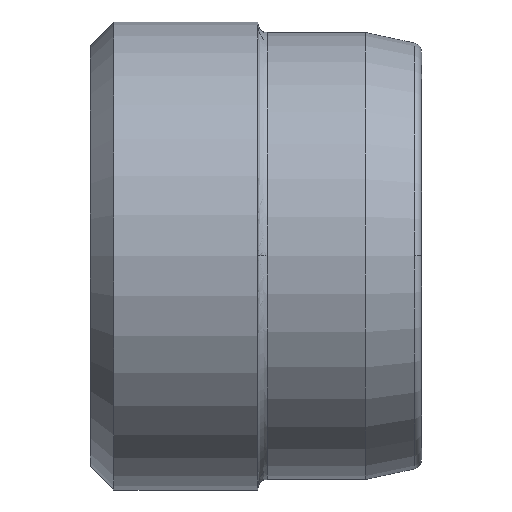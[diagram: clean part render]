
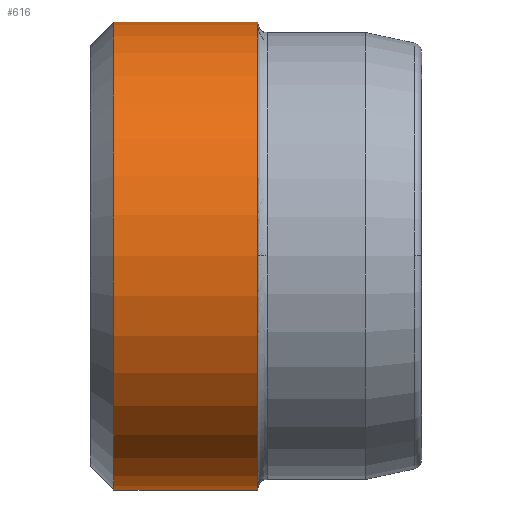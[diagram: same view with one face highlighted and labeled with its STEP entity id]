
A CAD part, top view. The second image highlights one B-rep face of the part: STEP entity #616.
In plain terms, the highlighted cylindrical face has radius 5 mm (diameter 10 mm), a partial arc.
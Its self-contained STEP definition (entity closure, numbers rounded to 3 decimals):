
#575=CARTESIAN_POINT('',(-0.537,0.633,0.0));
#576=DIRECTION('',(1.0,0.0,0.0));
#577=DIRECTION('',(0.0,1.0,0.0));
#578=AXIS2_PLACEMENT_3D('',#575,#576,#577);
#579=CYLINDRICAL_SURFACE('',#578,5.0);
#580=CARTESIAN_POINT('',(-1.825,5.633,0.0));
#581=VERTEX_POINT('',#580);
#582=CARTESIAN_POINT('',(1.25,5.633,0.0));
#583=VERTEX_POINT('',#582);
#584=CARTESIAN_POINT('',(-1.825,5.633,0.0));
#585=DIRECTION('',(1.0,0.0,0.0));
#586=VECTOR('',#585,3.075);
#587=LINE('',#584,#586);
#588=EDGE_CURVE('',#581,#583,#587,.T.);
#589=ORIENTED_EDGE('',*,*,#588,.F.);
#590=CARTESIAN_POINT('',(-1.825,-4.367,0.));
#591=VERTEX_POINT('',#590);
#592=CARTESIAN_POINT('',(-1.825,0.633,0.0));
#593=DIRECTION('',(-1.0,0.0,0.0));
#594=DIRECTION('',(0.0,-1.0,0.0));
#595=AXIS2_PLACEMENT_3D('',#592,#593,#594);
#596=CIRCLE('',#595,5.0);
#597=EDGE_CURVE('',#591,#581,#596,.T.);
#598=ORIENTED_EDGE('',*,*,#597,.F.);
#599=CARTESIAN_POINT('',(1.25,-4.367,0.));
#600=VERTEX_POINT('',#599);
#601=CARTESIAN_POINT('',(1.25,-4.367,0.));
#602=DIRECTION('',(-1.0,0.0,0.0));
#603=VECTOR('',#602,3.075);
#604=LINE('',#601,#603);
#605=EDGE_CURVE('',#600,#591,#604,.T.);
#606=ORIENTED_EDGE('',*,*,#605,.F.);
#607=CARTESIAN_POINT('',(1.25,0.633,0.0));
#608=DIRECTION('',(1.0,0.0,0.0));
#609=DIRECTION('',(0.0,1.0,0.0));
#610=AXIS2_PLACEMENT_3D('',#607,#608,#609);
#611=CIRCLE('',#610,5.0);
#612=EDGE_CURVE('',#583,#600,#611,.T.);
#613=ORIENTED_EDGE('',*,*,#612,.F.);
#614=EDGE_LOOP('',(#589,#598,#606,#613));
#615=FACE_OUTER_BOUND('',#614,.T.);
#616=ADVANCED_FACE('',(#615),#579,.T.);
